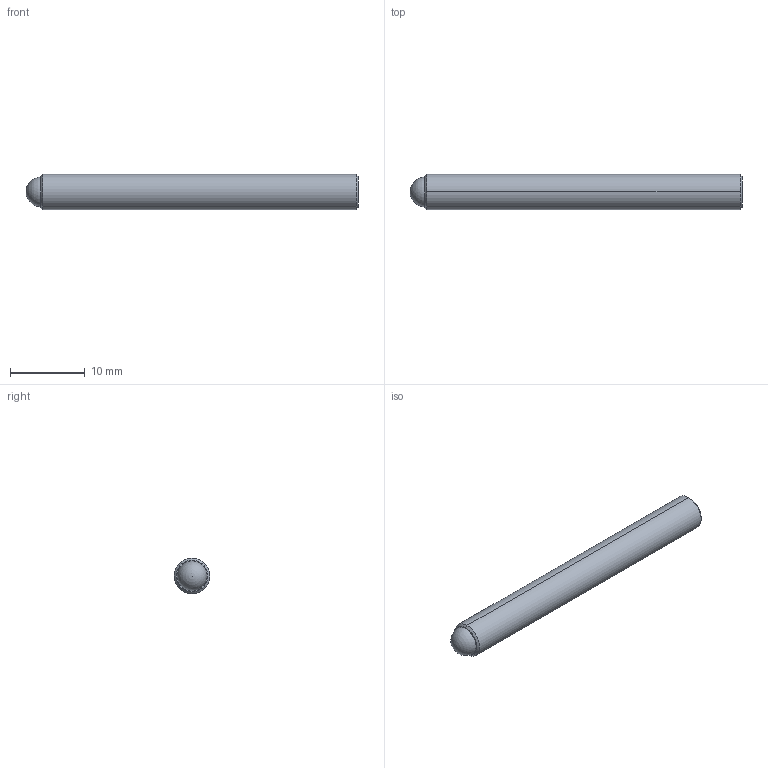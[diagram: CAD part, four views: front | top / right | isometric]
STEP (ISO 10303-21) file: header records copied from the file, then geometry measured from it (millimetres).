
FILE_DESCRIPTION (( 'STEP AP214' ), '1' );
FILE_NAME ('TS187-100-1750-AA.STEP', '2013-02-11T17:11:31', ( 'workpc' ), ( 'Microsoft' ), 'SwSTEP 2.0', 'SolidWorks 2013', '' );
FILE_SCHEMA (( 'AUTOMOTIVE_DESIGN' ));
Length unit declared in the file: inch
Products named in the file (1): TS187-100-1750-AA
Bounding box: 44.45 x 4.75 x 4.75 mm (x, y, z)
Volume: 748.6 mm3; surface area: 757.5 mm2
Topology: 2 solids, 2 shells, 20 faces, 45 edges, 29 vertices
Faces by surface type: plane 10, cylinder 4, cone 4, sphere 2
Entity records: 599 total; most frequent: DIRECTION 96, CARTESIAN_POINT 87, ORIENTED_EDGE 80, EDGE_CURVE 40, AXIS2_PLACEMENT_3D 35, VERTEX_POINT 26, LINE 26, VECTOR 26
